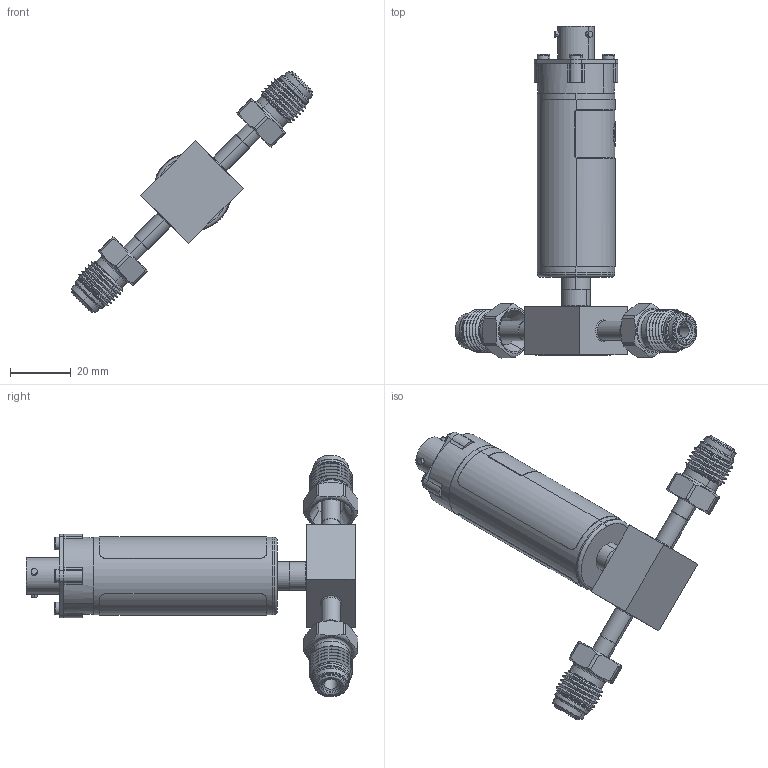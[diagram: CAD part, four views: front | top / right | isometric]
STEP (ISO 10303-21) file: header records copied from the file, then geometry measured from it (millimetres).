
FILE_DESCRIPTION (( 'STEP AP214' ), '1' );
FILE_NAME ('GSF-XXXXXX-B-XXX-SM.STEP', '2025-06-18T18:04:18', ( '' ), ( '' ), 'SwSTEP 2.0', 'SolidWorks 2023', '' );
FILE_SCHEMA (( 'AUTOMOTIVE_DESIGN' ));
Length unit declared in the file: inch
Products named in the file (6): ME131122; GSx Body_Integrated Connector; GSF-XXXXXX-B-XXX-SM; 333125_A333125001; GS B; 0136103_ME0136103003
Assembly tree (7 placements, depth 2):
  GSF-XXXXXX-B-XXX-SM
    GSx Body_Integrated Connector
    GS B
    333125_A333125001
    0136103_ME0136103003  x2
    ME131122  x2
Bounding box: 79.39 x 109.08 x 79.39 mm (x, y, z)
Volume: 27513.5 mm3; surface area: 25609.8 mm2
Topology: 15 solids, 15 shells, 564 faces, 1360 edges, 870 vertices
Faces by surface type: cylinder 202, plane 200, cone 68, torus 50, bspline 44
Entity records: 19612 total; most frequent: CARTESIAN_POINT 8178, ORIENTED_EDGE 2314, DIRECTION 2308, EDGE_CURVE 1157, AXIS2_PLACEMENT_3D 898, VERTEX_POINT 744, EDGE_LOOP 543, VECTOR 512
